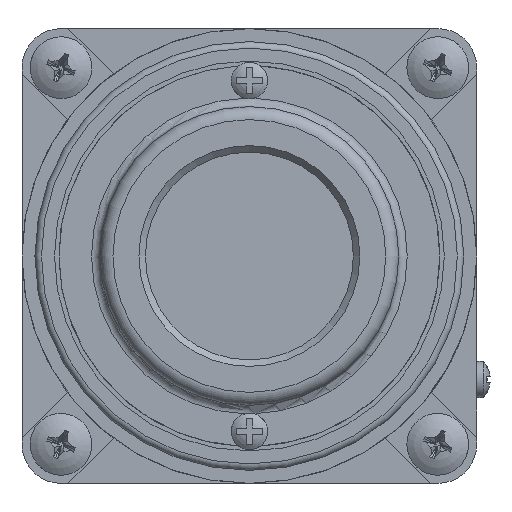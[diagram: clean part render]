
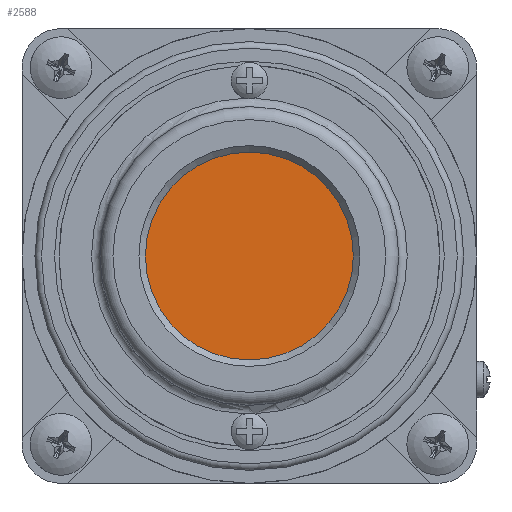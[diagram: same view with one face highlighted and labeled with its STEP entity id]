
A CAD part, left-side view. The second image highlights one B-rep face of the part: STEP entity #2588.
In plain terms, the highlighted planar face has unit normal (-1, 0, 0).
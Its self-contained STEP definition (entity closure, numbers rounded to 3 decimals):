
#1887=FACE_OUTER_BOUND('',#3789,.T.);
#2090=PLANE('',#8289);
#2588=ADVANCED_FACE('',(#1887),#2090,.T.);
#3789=EDGE_LOOP('',(#5403));
#5403=ORIENTED_EDGE('',*,*,#7064,.F.);
#6202=VERTEX_POINT('',#13222);
#7064=EDGE_CURVE('',#6202,#6202,#7471,.T.);
#7471=CIRCLE('',#8288,16.);
#8288=AXIS2_PLACEMENT_3D('',#13221,#9715,#9716);
#8289=AXIS2_PLACEMENT_3D('',#13223,#9717,#9718);
#9715=DIRECTION('',(1.,0.,0.));
#9716=DIRECTION('',(0.,0.,-1.));
#9717=DIRECTION('',(-1.,0.,0.));
#9718=DIRECTION('',(0.,0.,-1.));
#13221=CARTESIAN_POINT('',(-90.,0.,0.));
#13222=CARTESIAN_POINT('',(-90.,0.,-16.));
#13223=CARTESIAN_POINT('',(-90.,0.,0.));
